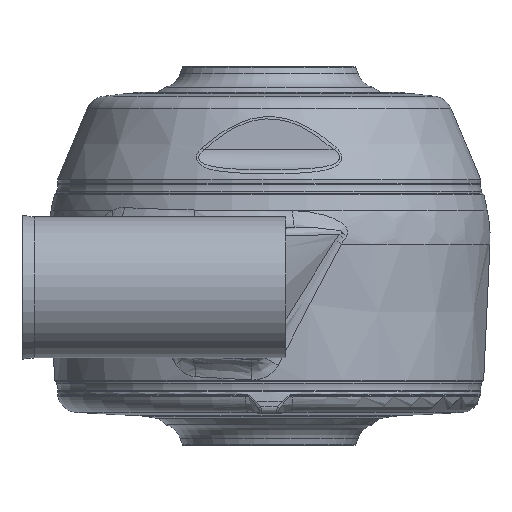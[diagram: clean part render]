
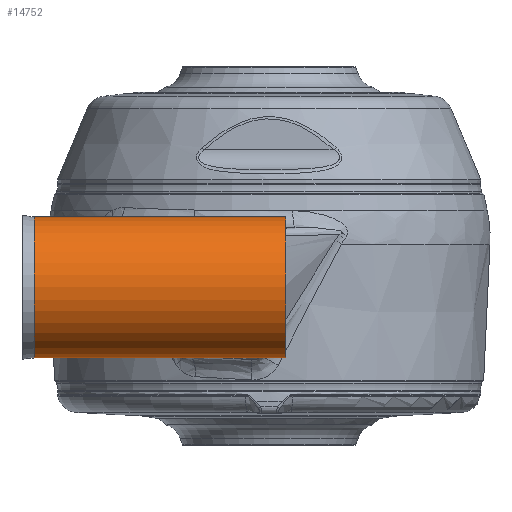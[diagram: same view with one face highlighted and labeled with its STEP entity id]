
A CAD part, front view. The second image highlights one B-rep face of the part: STEP entity #14752.
In plain terms, the highlighted cylindrical face has radius 10.5 mm (diameter 21 mm), a partial arc.
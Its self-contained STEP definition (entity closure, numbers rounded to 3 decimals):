
#573 = VERTEX_POINT ( 'NONE', #14581 ) ;
#957 = CIRCLE ( 'NONE', #16162, 10.5 ) ;
#1114 = ORIENTED_EDGE ( 'NONE', *, *, #12419, .T. ) ;
#1338 = DIRECTION ( 'NONE',  ( 1., 0., 0. ) ) ;
#1357 = DIRECTION ( 'NONE',  ( 0., 0., 1. ) ) ;
#1414 = CARTESIAN_POINT ( 'NONE',  ( -36.5, -52.5, 10.5 ) ) ;
#1638 = DIRECTION ( 'NONE',  ( 1., 0., 0. ) ) ;
#2669 = DIRECTION ( 'NONE',  ( 1., 0., 0. ) ) ;
#3050 = VECTOR ( 'NONE', #7750, 1000. ) ;
#4425 = DIRECTION ( 'NONE',  ( -1., 0., 0. ) ) ;
#5356 = AXIS2_PLACEMENT_3D ( 'NONE', #15141, #2669, #1357 ) ;
#5736 = CARTESIAN_POINT ( 'NONE',  ( 2.5, -52.5, 0. ) ) ;
#6466 = EDGE_CURVE ( 'NONE', #15475, #573, #10225, .T. ) ;
#6531 = CARTESIAN_POINT ( 'NONE',  ( -35., -52.5, 0. ) ) ;
#6533 = CARTESIAN_POINT ( 'NONE',  ( -35., -52.5, -10.5 ) ) ;
#6731 = CARTESIAN_POINT ( 'NONE',  ( -35., -52.5, 10.5 ) ) ;
#6776 = CIRCLE ( 'NONE', #8086, 10.5 ) ;
#7591 = CARTESIAN_POINT ( 'NONE',  ( -36.5, -52.5, -10.5 ) ) ;
#7750 = DIRECTION ( 'NONE',  ( 1., 0., 0. ) ) ;
#7885 = ORIENTED_EDGE ( 'NONE', *, *, #6466, .T. ) ;
#8086 = AXIS2_PLACEMENT_3D ( 'NONE', #5736, #4425, #15562 ) ;
#9228 = ORIENTED_EDGE ( 'NONE', *, *, #11352, .F. ) ;
#9243 = EDGE_CURVE ( 'NONE', #14771, #15475, #957, .T. ) ;
#10225 = LINE ( 'NONE', #7591, #3050 ) ;
#11320 = CYLINDRICAL_SURFACE ( 'NONE', #5356, 10.5 ) ;
#11352 = EDGE_CURVE ( 'NONE', #14771, #12683, #13664, .T. ) ;
#12419 = EDGE_CURVE ( 'NONE', #573, #12683, #6776, .T. ) ;
#12616 = FACE_OUTER_BOUND ( 'NONE', #14534, .T. ) ;
#12683 = VERTEX_POINT ( 'NONE', #14307 ) ;
#12801 = VECTOR ( 'NONE', #1338, 1000. ) ;
#13140 = ORIENTED_EDGE ( 'NONE', *, *, #9243, .T. ) ;
#13664 = LINE ( 'NONE', #1414, #12801 ) ;
#14136 = DIRECTION ( 'NONE',  ( 0., 0., -1. ) ) ;
#14307 = CARTESIAN_POINT ( 'NONE',  ( 2.5, -52.5, 10.5 ) ) ;
#14534 = EDGE_LOOP ( 'NONE', ( #13140, #7885, #1114, #9228 ) ) ;
#14581 = CARTESIAN_POINT ( 'NONE',  ( 2.5, -52.5, -10.5 ) ) ;
#14752 = ADVANCED_FACE ( 'NONE', ( #12616 ), #11320, .T. ) ;
#14771 = VERTEX_POINT ( 'NONE', #6731 ) ;
#15141 = CARTESIAN_POINT ( 'NONE',  ( -36.5, -52.5, 0. ) ) ;
#15475 = VERTEX_POINT ( 'NONE', #6533 ) ;
#15562 = DIRECTION ( 'NONE',  ( 0., 0., 1. ) ) ;
#16162 = AXIS2_PLACEMENT_3D ( 'NONE', #6531, #1638, #14136 ) ;
